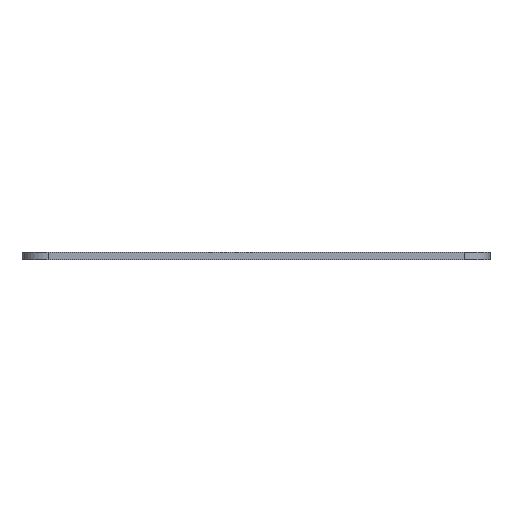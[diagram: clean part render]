
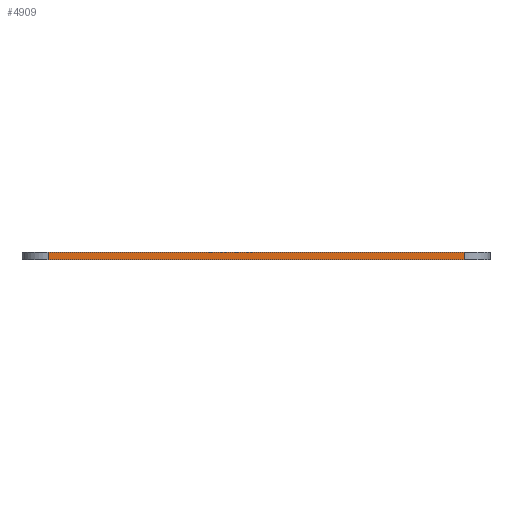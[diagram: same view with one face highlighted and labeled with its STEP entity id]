
A CAD part, left-side view. The second image highlights one B-rep face of the part: STEP entity #4909.
In plain terms, the highlighted planar face has unit normal (-1, 0, 0).
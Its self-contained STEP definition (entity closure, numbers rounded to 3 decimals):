
#464=DIRECTION('',(0.,-1.,0.));
#465=VECTOR('',#464,101.6);
#466=CARTESIAN_POINT('',(0.,50.8,0.));
#467=LINE('',#466,#465);
#899=DIRECTION('',(0.,-1.,0.));
#900=VECTOR('',#899,101.6);
#901=CARTESIAN_POINT('',(0.,50.8,-1.9));
#902=LINE('',#901,#900);
#1857=DIRECTION('',(0.,0.,1.));
#1858=VECTOR('',#1857,1.9);
#1859=CARTESIAN_POINT('',(0.,50.8,-1.9));
#1860=LINE('',#1859,#1858);
#1861=DIRECTION('',(0.,0.,1.));
#1862=VECTOR('',#1861,1.9);
#1863=CARTESIAN_POINT('',(0.,-50.8,-1.9));
#1864=LINE('',#1863,#1862);
#2378=CARTESIAN_POINT('',(0.,50.8,0.));
#2380=VERTEX_POINT('',#2378);
#2381=CARTESIAN_POINT('',(0.,50.8,-1.9));
#2382=VERTEX_POINT('',#2381);
#2385=CARTESIAN_POINT('',(0.,-50.8,0.));
#2387=VERTEX_POINT('',#2385);
#2391=CARTESIAN_POINT('',(0.,-50.8,-1.9));
#2392=VERTEX_POINT('',#2391);
#4897=CARTESIAN_POINT('',(0.,0.,-0.95));
#4898=DIRECTION('',(-1.,0.,0.));
#4899=DIRECTION('',(0.,-1.,0.));
#4900=AXIS2_PLACEMENT_3D('',#4897,#4898,#4899);
#4901=PLANE('',#4900);
#4902=ORIENTED_EDGE('',*,*,#4890,.T.);
#4903=ORIENTED_EDGE('',*,*,#2508,.T.);
#4905=ORIENTED_EDGE('',*,*,#4904,.F.);
#4906=ORIENTED_EDGE('',*,*,#2816,.F.);
#4907=EDGE_LOOP('',(#4902,#4903,#4905,#4906));
#4908=FACE_OUTER_BOUND('',#4907,.F.);
#2508=EDGE_CURVE('',#2380,#2387,#467,.T.);
#2816=EDGE_CURVE('',#2382,#2392,#902,.T.);
#4890=EDGE_CURVE('',#2382,#2380,#1860,.T.);
#4904=EDGE_CURVE('',#2392,#2387,#1864,.T.);
#4909=ADVANCED_FACE('',(#4908),#4901,.T.);
